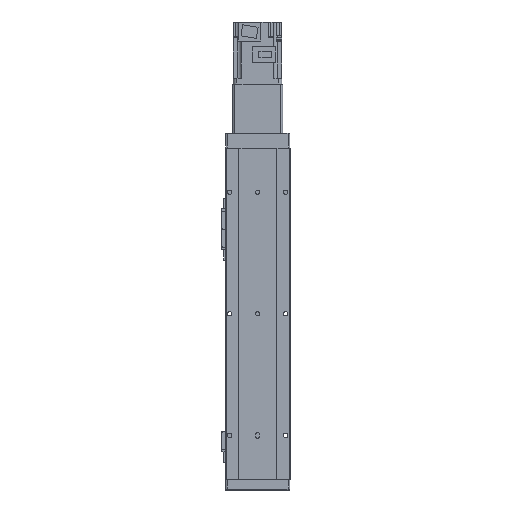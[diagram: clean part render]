
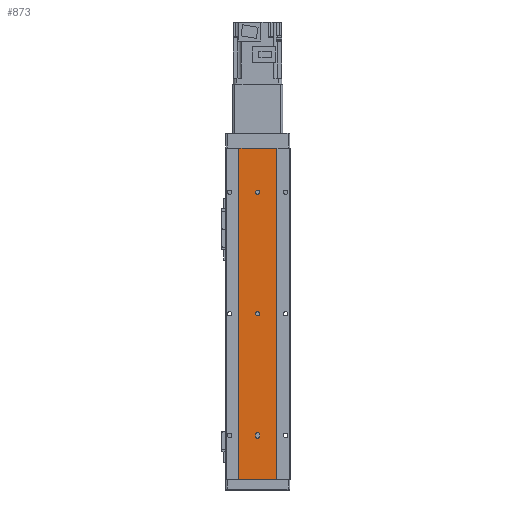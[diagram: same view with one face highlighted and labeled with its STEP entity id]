
A CAD part, front view. The second image highlights one B-rep face of the part: STEP entity #873.
In plain terms, the highlighted planar face has unit normal (0, -1, 0).
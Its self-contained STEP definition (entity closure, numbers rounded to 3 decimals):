
#177 = LINE ( 'NONE', #5553, #213 ) ;
#184 = LINE ( 'NONE', #5567, #197 ) ;
#197 = VECTOR ( 'NONE', #5533, 1000. ) ;
#213 = VECTOR ( 'NONE', #5559, 1000. ) ;
#873 = ADVANCED_FACE ( 'NONE', ( #39124, #39125, #39101, #39091 ), #39550, .T. ) ;
#1595 = CARTESIAN_POINT ( 'NONE',  ( 0., 0.5, -355.5 ) ) ;
#1605 = DIRECTION ( 'NONE',  ( 0., -1., 0. ) ) ;
#1623 = DIRECTION ( 'NONE',  ( 1., 0., 0. ) ) ;
#1761 = DIRECTION ( 'NONE',  ( 0., -1., 0. ) ) ;
#1762 = DIRECTION ( 'NONE',  ( 1., 0., 0. ) ) ;
#1766 = CARTESIAN_POINT ( 'NONE',  ( 0., 0.5, -54.5 ) ) ;
#1801 = DIRECTION ( 'NONE',  ( 0., -1., 0. ) ) ;
#1802 = DIRECTION ( 'NONE',  ( 1., 0., 0. ) ) ;
#1808 = CARTESIAN_POINT ( 'NONE',  ( 0., 0.5, -204.5 ) ) ;
#5533 = DIRECTION ( 'NONE',  ( 1., 0., 0. ) ) ;
#5553 = CARTESIAN_POINT ( 'NONE',  ( -23., 0.5, 0. ) ) ;
#5559 = DIRECTION ( 'NONE',  ( 1., 0., 0. ) ) ;
#5567 = CARTESIAN_POINT ( 'NONE',  ( -23., 0.5, -409. ) ) ;
#6684 = LINE ( 'NONE', #8067, #6708 ) ;
#6695 = LINE ( 'NONE', #8090, #6713 ) ;
#6708 = VECTOR ( 'NONE', #8101, 1000. ) ;
#6713 = VECTOR ( 'NONE', #8074, 1000. ) ;
#6715 = CIRCLE ( 'NONE', #40971, 2.5 ) ;
#6750 = CIRCLE ( 'NONE', #40963, 2.5 ) ;
#6752 = VECTOR ( 'NONE', #8113, 1000. ) ;
#6754 = CIRCLE ( 'NONE', #40929, 2.5 ) ;
#6772 = CIRCLE ( 'NONE', #40932, 2.5 ) ;
#6781 = VECTOR ( 'NONE', #8157, 1000. ) ;
#6801 = LINE ( 'NONE', #8165, #6781 ) ;
#6808 = LINE ( 'NONE', #8146, #6752 ) ;
#8065 = CARTESIAN_POINT ( 'NONE',  ( 0., 0.5, -54.5 ) ) ;
#8067 = CARTESIAN_POINT ( 'NONE',  ( 23., 0.5, -409. ) ) ;
#8068 = DIRECTION ( 'NONE',  ( 0., -1., 0. ) ) ;
#8074 = DIRECTION ( 'NONE',  ( 0., 0., 1. ) ) ;
#8090 = CARTESIAN_POINT ( 'NONE',  ( 2.5, 0.5, -409. ) ) ;
#8101 = DIRECTION ( 'NONE',  ( 0., 0., 1. ) ) ;
#8111 = DIRECTION ( 'NONE',  ( 1., 0., 0. ) ) ;
#8113 = DIRECTION ( 'NONE',  ( 0., 0., -1. ) ) ;
#8129 = CARTESIAN_POINT ( 'NONE',  ( 0., 0.5, -204.5 ) ) ;
#8146 = CARTESIAN_POINT ( 'NONE',  ( -2.5, 0.5, -409. ) ) ;
#8147 = DIRECTION ( 'NONE',  ( 0., -1., 0. ) ) ;
#8153 = DIRECTION ( 'NONE',  ( 1., 0., 0. ) ) ;
#8154 = CARTESIAN_POINT ( 'NONE',  ( 0., 0.5, -353.5 ) ) ;
#8155 = CARTESIAN_POINT ( 'NONE',  ( 0., 0.5, -355.5 ) ) ;
#8157 = DIRECTION ( 'NONE',  ( 0., 0., 1. ) ) ;
#8162 = DIRECTION ( 'NONE',  ( 1., 0., 0. ) ) ;
#8165 = CARTESIAN_POINT ( 'NONE',  ( -23., 0.5, -409. ) ) ;
#8168 = DIRECTION ( 'NONE',  ( 1., 0., 0. ) ) ;
#8172 = DIRECTION ( 'NONE',  ( 0., -1., 0. ) ) ;
#8184 = DIRECTION ( 'NONE',  ( 0., -1., 0. ) ) ;
#11076 = CARTESIAN_POINT ( 'NONE',  ( -2.5, 0.5, -353.5 ) ) ;
#11098 = CARTESIAN_POINT ( 'NONE',  ( -2.5, 0.5, -355.5 ) ) ;
#11101 = CARTESIAN_POINT ( 'NONE',  ( 2.5, 0.5, -353.5 ) ) ;
#24089 = CARTESIAN_POINT ( 'NONE',  ( 0., 0.5, -202. ) ) ;
#24092 = CARTESIAN_POINT ( 'NONE',  ( 0., 0.5, -52. ) ) ;
#24096 = CARTESIAN_POINT ( 'NONE',  ( 0., 0.5, -207. ) ) ;
#24362 = CARTESIAN_POINT ( 'NONE',  ( 0., 0.5, -358. ) ) ;
#24376 = CARTESIAN_POINT ( 'NONE',  ( 2.5, 0.5, -355.5 ) ) ;
#24394 = CARTESIAN_POINT ( 'NONE',  ( 0., 0.5, -57. ) ) ;
#24456 = CARTESIAN_POINT ( 'NONE',  ( 23., 0.5, 0. ) ) ;
#24490 = CARTESIAN_POINT ( 'NONE',  ( -23., 0.5, -409. ) ) ;
#24506 = CARTESIAN_POINT ( 'NONE',  ( -23., 0.5, 0. ) ) ;
#24557 = CARTESIAN_POINT ( 'NONE',  ( 23., 0.5, -409. ) ) ;
#29885 = EDGE_CURVE ( 'NONE', #37681, #37635, #44787, .T. ) ;
#29949 = EDGE_CURVE ( 'NONE', #36516, #37637, #44843, .T. ) ;
#29963 = EDGE_CURVE ( 'NONE', #36526, #36524, #44870, .T. ) ;
#30152 = EDGE_CURVE ( 'NONE', #37764, #37747, #177, .T. ) ;
#30163 = EDGE_CURVE ( 'NONE', #37762, #37850, #184, .T. ) ;
#30640 = EDGE_CURVE ( 'NONE', #37850, #37747, #6684, .T. ) ;
#30645 = EDGE_CURVE ( 'NONE', #37635, #31637, #6695, .T. ) ;
#30650 = EDGE_CURVE ( 'NONE', #37637, #36516, #6715, .T. ) ;
#30667 = EDGE_CURVE ( 'NONE', #36524, #36526, #6750, .T. ) ;
#30668 = EDGE_CURVE ( 'NONE', #31638, #31658, #6808, .T. ) ;
#30673 = EDGE_CURVE ( 'NONE', #31637, #31638, #6754, .T. ) ;
#30679 = EDGE_CURVE ( 'NONE', #31658, #37681, #6772, .T. ) ;
#30680 = EDGE_CURVE ( 'NONE', #37762, #37764, #6801, .T. ) ;
#31637 = VERTEX_POINT ( 'NONE', #11101 ) ;
#31638 = VERTEX_POINT ( 'NONE', #11076 ) ;
#31658 = VERTEX_POINT ( 'NONE', #11098 ) ;
#33289 = EDGE_LOOP ( 'NONE', ( #36334, #36284, #36297, #36369 ) ) ;
#33295 = EDGE_LOOP ( 'NONE', ( #36321, #36312 ) ) ;
#33309 = EDGE_LOOP ( 'NONE', ( #36266, #36349 ) ) ;
#33313 = EDGE_LOOP ( 'NONE', ( #36368, #36303, #36381, #36291, #36329 ) ) ;
#35056 = AXIS2_PLACEMENT_3D ( 'NONE', #39552, #39526, #39553 ) ;
#36266 = ORIENTED_EDGE ( 'NONE', *, *, #30667, .F. ) ;
#36284 = ORIENTED_EDGE ( 'NONE', *, *, #30680, .F. ) ;
#36291 = ORIENTED_EDGE ( 'NONE', *, *, #30645, .F. ) ;
#36297 = ORIENTED_EDGE ( 'NONE', *, *, #30163, .T. ) ;
#36303 = ORIENTED_EDGE ( 'NONE', *, *, #30668, .F. ) ;
#36312 = ORIENTED_EDGE ( 'NONE', *, *, #29949, .F. ) ;
#36321 = ORIENTED_EDGE ( 'NONE', *, *, #30650, .F. ) ;
#36329 = ORIENTED_EDGE ( 'NONE', *, *, #29885, .F. ) ;
#36334 = ORIENTED_EDGE ( 'NONE', *, *, #30152, .F. ) ;
#36349 = ORIENTED_EDGE ( 'NONE', *, *, #29963, .F. ) ;
#36368 = ORIENTED_EDGE ( 'NONE', *, *, #30679, .F. ) ;
#36369 = ORIENTED_EDGE ( 'NONE', *, *, #30640, .T. ) ;
#36381 = ORIENTED_EDGE ( 'NONE', *, *, #30673, .F. ) ;
#36516 = VERTEX_POINT ( 'NONE', #24092 ) ;
#36524 = VERTEX_POINT ( 'NONE', #24096 ) ;
#36526 = VERTEX_POINT ( 'NONE', #24089 ) ;
#37635 = VERTEX_POINT ( 'NONE', #24376 ) ;
#37637 = VERTEX_POINT ( 'NONE', #24394 ) ;
#37681 = VERTEX_POINT ( 'NONE', #24362 ) ;
#37747 = VERTEX_POINT ( 'NONE', #24456 ) ;
#37762 = VERTEX_POINT ( 'NONE', #24490 ) ;
#37764 = VERTEX_POINT ( 'NONE', #24506 ) ;
#37850 = VERTEX_POINT ( 'NONE', #24557 ) ;
#39091 = FACE_OUTER_BOUND ( 'NONE', #33289, .T. ) ;
#39101 = FACE_BOUND ( 'NONE', #33295, .T. ) ;
#39124 = FACE_BOUND ( 'NONE', #33313, .T. ) ;
#39125 = FACE_BOUND ( 'NONE', #33309, .T. ) ;
#39526 = DIRECTION ( 'NONE',  ( 0., -1., 0. ) ) ;
#39550 = PLANE ( 'NONE',  #35056 ) ;
#39552 = CARTESIAN_POINT ( 'NONE',  ( -23., 0.5, -409. ) ) ;
#39553 = DIRECTION ( 'NONE',  ( 1., 0., 0. ) ) ;
#40626 = AXIS2_PLACEMENT_3D ( 'NONE', #1766, #1761, #1762 ) ;
#40658 = AXIS2_PLACEMENT_3D ( 'NONE', #1595, #1605, #1623 ) ;
#40712 = AXIS2_PLACEMENT_3D ( 'NONE', #1808, #1801, #1802 ) ;
#40929 = AXIS2_PLACEMENT_3D ( 'NONE', #8154, #8172, #8162 ) ;
#40932 = AXIS2_PLACEMENT_3D ( 'NONE', #8155, #8184, #8153 ) ;
#40963 = AXIS2_PLACEMENT_3D ( 'NONE', #8129, #8147, #8168 ) ;
#40971 = AXIS2_PLACEMENT_3D ( 'NONE', #8065, #8068, #8111 ) ;
#44787 = CIRCLE ( 'NONE', #40658, 2.5 ) ;
#44843 = CIRCLE ( 'NONE', #40626, 2.5 ) ;
#44870 = CIRCLE ( 'NONE', #40712, 2.5 ) ;
